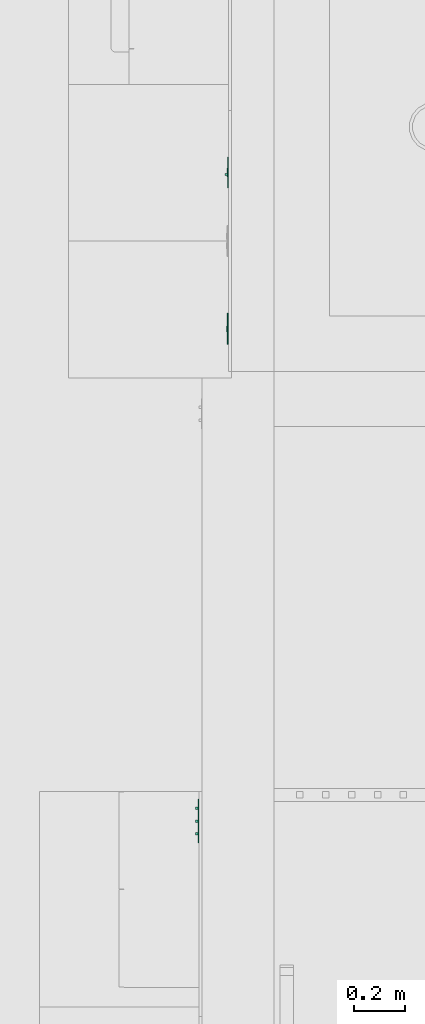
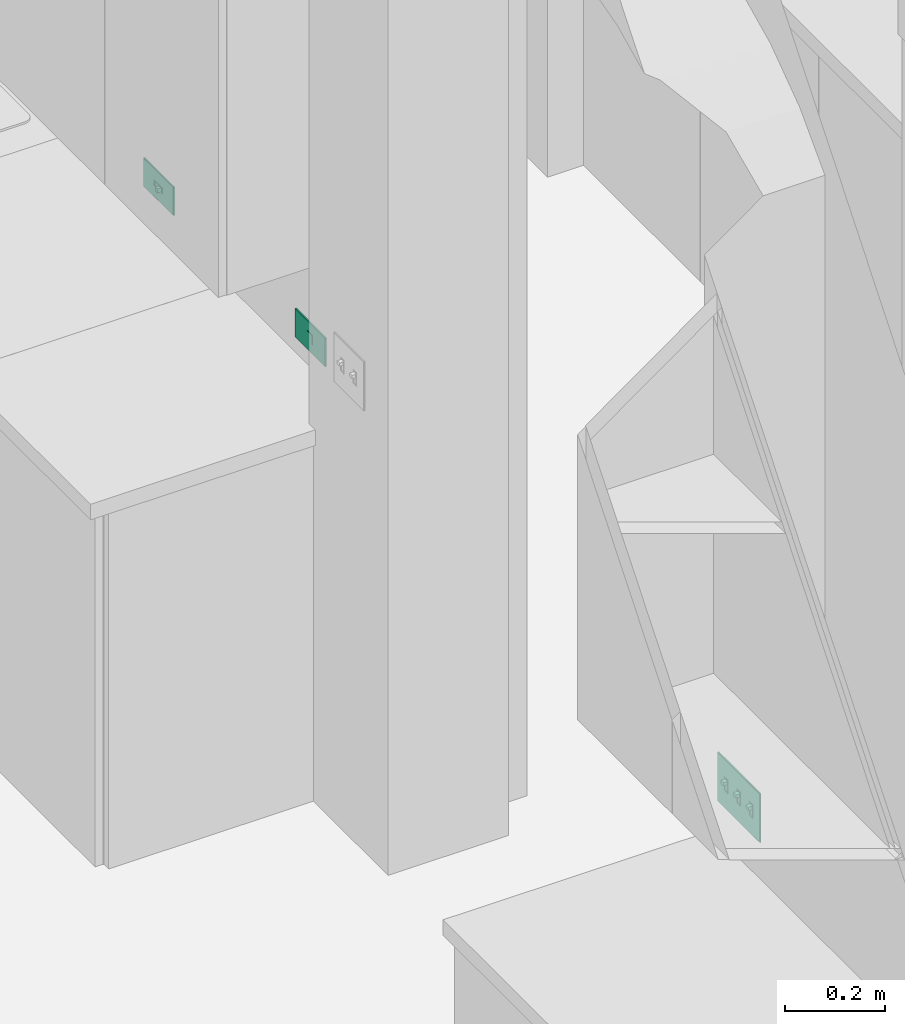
# One storey, part 40 of 103: 3 flow controllers.
"""IFC2X3 building model written with IfcOpenShell, lengths in inches."""

from ifc_helpers import new_model, entity, si_unit, converted_unit, derived_unit, money_unit, direction, frame, origin_with_axes, place, context, subcontext, project, spatial, faceted_brep, type_object, element, save


model = new_model("IFC2X3")

# Units and contexts
model_context = context("Model", 3, precision=0.00039370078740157, world=origin_with_axes(), true_north=direction((0.0, 1.0)))
plan_context = context("Plan", 3, precision=0.00039370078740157, world=origin_with_axes(), true_north=direction((0.0, 1.0)))
body_context = subcontext(model_context, "Body", "Model", "MODEL_VIEW")
ifc_project = project(units=[converted_unit("LENGTHUNIT", "INCH", entity("IfcPositiveLengthMeasure", 0.0254), si_unit("LENGTHUNIT", "METRE"), dimensions=[1, 0, 0, 0, 0, 0, 0]), converted_unit("AREAUNIT", "SQUARE_FOOT", entity("IfcPositiveLengthMeasure", 0.09290304), si_unit("AREAUNIT", "SQUARE_METRE"), dimensions=[2, 0, 0, 0, 0, 0, 0]), si_unit("PLANEANGLEUNIT", "RADIAN"), si_unit("SOLIDANGLEUNIT", "STERADIAN"), money_unit("USD"), converted_unit("TIMEUNIT", "Year", entity("IfcTimeMeasure", 31557600.0), si_unit("TIMEUNIT", "SECOND"), dimensions=[0, 0, 1, 0, 0, 0, 0]), si_unit("MASSUNIT", "GRAM", prefix="KILO"), si_unit("THERMODYNAMICTEMPERATUREUNIT", "DEGREE_CELSIUS"), si_unit("LUMINOUSINTENSITYUNIT", "LUMEN"), si_unit("ENERGYUNIT", "JOULE", prefix="MEGA"), derived_unit("SPECIFICHEATCAPACITYUNIT", [(si_unit("ENERGYUNIT", "JOULE"), 1), (si_unit("MASSUNIT", "GRAM", prefix="KILO"), -1), (si_unit("THERMODYNAMICTEMPERATUREUNIT", "KELVIN"), -1)])], contexts=[model_context, plan_context])

# Site, building, storey
site_placement = place(None, origin_with_axes())
site = spatial("IfcSite", under=ifc_project, at=site_placement, Name="Site", CompositionType="ELEMENT")
building_placement = place(site_placement, origin_with_axes())
building = spatial("IfcBuilding", under=site, at=building_placement, Name="Building", CompositionType="ELEMENT")
storey_placement = place(building_placement, frame((0.0, 0.0, 127.9999999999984), z_axis=(0.0, 0.0, 1.0), x_axis=(1.0, 0.0, 0.0)))
storey = spatial("IfcBuildingStorey", under=building, at=storey_placement, Name="Second Floor", CompositionType="ELEMENT", Elevation=128.0)

# Flow controllers
switching_device_type_1 = type_object("IfcSwitchingDeviceType", Name="Outlet 1 US", PredefinedType="NOTDEFINED")
flow_controller_1_placement = place(storey_placement, frame((154.4998606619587, 203.5007118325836, 38.99999999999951), z_axis=(0.0, 0.0, 1.0), x_axis=(2.019381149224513e-06, -0.9999999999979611, 0.0)))
element("IfcFlowController", 1, at=flow_controller_1_placement, inside=storey, type_object=switching_device_type_1, Name="OBJ-05", context=body_context, shape_type="Brep", body=[
    faceted_brep([(0.39370078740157, -0.0344488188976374, -0.472440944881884), (0.3937007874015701, -0.03444881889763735, 0.472440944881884), (0.3937007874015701, -0.2165354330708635, 0.472440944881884), (0.39370078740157, -0.2165354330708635, -0.472440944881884), (-0.3937007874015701, -0.0344488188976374, -0.4724409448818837), (-0.39370078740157, -0.03444881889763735, 0.472440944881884), (-0.39370078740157, -0.2165354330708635, 0.472440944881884), (-0.3937007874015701, -0.2165354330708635, -0.4724409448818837)], [[[0, 1, 2, 3]], [[0, 4, 5, 1]], [[1, 5, 6, 2]], [[3, 2, 6, 7]], [[4, 0, 3, 7]], [[5, 4, 7, 6]]]),
    faceted_brep([(2.374999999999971, -0.1377952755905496, -1.374999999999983), (2.374999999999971, -0.1377952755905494, 1.374999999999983), (-2.374999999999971, -0.1377952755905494, 1.374999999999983), (-2.374999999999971, -0.1377952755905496, -1.374999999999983), (-0.3937007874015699, -0.1377952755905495, -0.4724409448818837), (-0.39370078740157, -0.1377952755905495, 0.4724409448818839), (0.3937007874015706, -0.1377952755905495, 0.4724409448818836), (0.39370078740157, -0.1377952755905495, -0.472440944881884), (2.374999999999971, 0.0, 1.374999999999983), (2.374999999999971, 0.0, -1.374999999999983), (-2.374999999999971, 0.0, 1.374999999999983), (-2.374999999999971, 0.0, -1.374999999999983), (-0.3937007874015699, -0.0344488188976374, -0.4724409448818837), (-0.39370078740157, -0.03444881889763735, 0.4724409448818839), (0.3937007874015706, -0.03444881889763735, 0.4724409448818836), (0.39370078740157, -0.0344488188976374, -0.472440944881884)], [[[0, 1, 2, 3], [4, 5, 6, 7]], [[8, 1, 0, 9]], [[10, 2, 1, 8]], [[11, 3, 2, 10]], [[9, 0, 3, 11]], [[5, 4, 12, 13]], [[6, 5, 13, 14]], [[7, 6, 14, 15]], [[4, 7, 15, 12]], [[10, 8, 9, 11]], [[14, 13, 12, 15]]]),
])
switching_device_type_2 = type_object("IfcSwitchingDeviceType", Name="Switch US", PredefinedType="NOTDEFINED")
flow_controller_2_placement = place(storey_placement, frame((150.0000134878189, 128.0006987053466, 41.99999999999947), z_axis=(0.0, 0.0, 1.0), x_axis=(1.346018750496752e-06, -0.9999999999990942, 0.0)))
element("IfcFlowController", 2, at=flow_controller_2_placement, inside=storey, type_object=switching_device_type_2, Name="OBJ-09", context=body_context, shape_type="Brep", body=[
    faceted_brep([(2.165354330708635, 0.0, -0.5905511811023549), (1.771653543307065, 0.0, -0.5905511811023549), (1.771653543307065, 0.0, 0.5905511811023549), (2.165354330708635, 0.0, 0.5905511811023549), (2.165354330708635, -0.1033464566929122, -0.5905511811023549), (1.771653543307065, -0.1033464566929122, -0.5905511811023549), (1.771653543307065, -0.1033464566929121, 0.157480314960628), (1.771653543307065, -0.4970472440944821, 0.1574803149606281), (1.771653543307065, -0.4970472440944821, 0.472440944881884), (1.771653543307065, -0.1033464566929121, 0.472440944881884), (1.771653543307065, -0.1033464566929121, 0.5905511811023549), (2.165354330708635, -0.103346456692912, 0.5905511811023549), (2.165354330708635, -0.1033464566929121, 0.472440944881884), (2.165354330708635, -0.4970472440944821, 0.472440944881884), (2.165354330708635, -0.4970472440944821, 0.1574803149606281), (2.165354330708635, -0.1033464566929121, 0.157480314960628)], [[[0, 1, 2, 3]], [[4, 5, 1, 0]], [[1, 5, 6, 7, 8, 9, 10, 2]], [[3, 2, 10, 11]], [[0, 3, 11, 12, 13, 14, 15, 4]], [[15, 6, 5, 4]], [[14, 7, 6, 15]], [[13, 8, 7, 14]], [[12, 9, 8, 13]], [[11, 10, 9, 12]]]),
    faceted_brep([(2.244094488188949, 0.0, -0.669291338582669), (2.244094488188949, -0.1771653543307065, -0.669291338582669), (1.692913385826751, -0.1771653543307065, -0.669291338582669), (1.692913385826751, 0.0, -0.669291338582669), (2.244094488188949, 0.0, 0.669291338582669), (2.244094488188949, -0.1771653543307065, 0.669291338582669), (1.692913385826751, -0.1771653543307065, 0.669291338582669), (2.165354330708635, -0.1771653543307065, -0.5905511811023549), (1.771653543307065, -0.1771653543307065, -0.5905511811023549), (1.771653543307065, -0.1771653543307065, 0.5905511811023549), (2.165354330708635, -0.1771653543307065, 0.5905511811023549), (1.692913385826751, 0.0, 0.669291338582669), (2.165354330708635, 0.0, -0.5905511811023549), (2.165354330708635, 0.0, 0.5905511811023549), (1.771653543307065, 0.0, 0.5905511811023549), (1.771653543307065, 0.0, -0.5905511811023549)], [[[0, 1, 2, 3]], [[4, 5, 1, 0]], [[1, 5, 6, 2], [7, 8, 9, 10]], [[3, 2, 6, 11]], [[0, 3, 11, 4], [12, 13, 14, 15]], [[11, 6, 5, 4]], [[15, 8, 7, 12]], [[14, 9, 8, 15]], [[13, 10, 9, 14]], [[12, 7, 10, 13]]]),
    faceted_brep([(0.9842519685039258, -0.103346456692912, 2.362204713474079), (3.346456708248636, -0.103346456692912, 2.362204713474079), (3.346456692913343, 0.0, 2.36220472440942), (0.9842519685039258, 0.0, 2.36220472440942), (0.9842519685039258, -0.1122624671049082, 2.361030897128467), (3.345282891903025, -0.1122624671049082, 2.361030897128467), (3.346456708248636, -0.1033464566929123, -2.36220473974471), (3.346456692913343, 0.0, -2.36220472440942), (0.9842519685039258, 0.0, -2.36220472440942), (1.69291338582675, 0.0, -0.669291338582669), (2.244094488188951, 0.0, -0.669291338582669), (2.244094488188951, 0.0, 0.669291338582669), (1.69291338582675, 0.0, 0.669291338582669), (0.9842519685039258, -0.1033464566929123, -2.36220473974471), (0.9842519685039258, -0.1122624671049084, -2.361030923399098), (0.9842519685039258, -0.1277054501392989, -2.352114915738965), (0.9842519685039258, -0.1366214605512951, -2.336671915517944), (0.9842519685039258, -0.1377952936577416, -2.327755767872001), (0.9842519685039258, -0.1377952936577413, 2.32775574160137), (0.9842519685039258, -0.1366214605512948, 2.336671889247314), (0.9842519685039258, -0.1277054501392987, 2.352114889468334), (3.336366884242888, -0.1277054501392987, 2.352114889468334), (3.345282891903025, -0.1122624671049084, -2.361030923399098), (1.69291338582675, -0.1377952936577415, -0.669291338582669), (2.244094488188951, -0.1377952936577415, -0.669291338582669), (2.244094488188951, -0.1377952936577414, 0.669291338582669), (1.69291338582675, -0.1377952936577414, 0.669291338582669), (3.336366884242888, -0.1277054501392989, -2.352114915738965), (3.320923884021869, -0.1366214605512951, -2.336671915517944), (3.312007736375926, -0.1377952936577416, -2.327755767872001), (3.312007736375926, -0.1377952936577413, 2.32775574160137), (3.320923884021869, -0.1366214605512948, 2.336671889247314)], [[[0, 1, 2, 3]], [[4, 5, 1, 0]], [[6, 7, 2, 1]], [[3, 2, 7, 8], [9, 10, 11, 12]], [[8, 13, 14, 15, 16, 17, 18, 19, 20, 4, 0, 3]], [[20, 21, 5, 4]], [[22, 6, 1, 5]], [[8, 7, 6, 13]], [[10, 9, 23, 24]], [[11, 10, 24, 25]], [[12, 11, 25, 26]], [[9, 12, 26, 23]], [[13, 6, 22, 14]], [[14, 22, 27, 15]], [[15, 27, 28, 16]], [[16, 28, 29, 17]], [[17, 29, 30, 18], [25, 24, 23, 26]], [[18, 30, 31, 19]], [[19, 31, 21, 20]], [[27, 22, 5, 21]], [[28, 27, 21, 31]], [[29, 28, 31, 30]]]),
    faceted_brep([(0.1968503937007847, 0.0, -0.5905511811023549), (-0.1968503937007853, 0.0, -0.5905511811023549), (-0.1968503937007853, 0.0, 0.5905511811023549), (0.1968503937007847, 0.0, 0.5905511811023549), (0.1968503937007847, -0.1033464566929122, -0.5905511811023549), (-0.1968503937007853, -0.1033464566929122, -0.5905511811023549), (-0.1968503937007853, -0.1033464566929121, 0.157480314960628), (-0.1968503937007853, -0.4970472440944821, 0.1574803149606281), (-0.1968503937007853, -0.4970472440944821, 0.472440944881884), (-0.1968503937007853, -0.1033464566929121, 0.472440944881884), (-0.1968503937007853, -0.1033464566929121, 0.5905511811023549), (0.1968503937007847, -0.103346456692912, 0.5905511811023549), (0.1968503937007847, -0.1033464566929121, 0.472440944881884), (0.1968503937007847, -0.4970472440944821, 0.472440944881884), (0.1968503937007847, -0.4970472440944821, 0.1574803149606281), (0.1968503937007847, -0.1033464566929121, 0.157480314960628)], [[[0, 1, 2, 3]], [[4, 5, 1, 0]], [[1, 5, 6, 7, 8, 9, 10, 2]], [[3, 2, 10, 11]], [[0, 3, 11, 12, 13, 14, 15, 4]], [[15, 6, 5, 4]], [[14, 7, 6, 15]], [[13, 8, 7, 14]], [[12, 9, 8, 13]], [[11, 10, 9, 12]]]),
    faceted_brep([(0.2755905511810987, 0.0, -0.669291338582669), (0.2755905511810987, -0.1771653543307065, -0.669291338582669), (-0.2755905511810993, -0.1771653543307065, -0.669291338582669), (-0.2755905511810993, 0.0, -0.669291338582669), (0.2755905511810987, 0.0, 0.669291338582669), (0.2755905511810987, -0.1771653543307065, 0.669291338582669), (-0.2755905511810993, -0.1771653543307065, 0.669291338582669), (0.1968503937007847, -0.1771653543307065, -0.5905511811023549), (-0.1968503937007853, -0.1771653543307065, -0.5905511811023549), (-0.1968503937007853, -0.1771653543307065, 0.5905511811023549), (0.1968503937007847, -0.1771653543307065, 0.5905511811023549), (-0.2755905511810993, 0.0, 0.669291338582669), (0.1968503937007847, 0.0, -0.5905511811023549), (0.1968503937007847, 0.0, 0.5905511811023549), (-0.1968503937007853, 0.0, 0.5905511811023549), (-0.1968503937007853, 0.0, -0.5905511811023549)], [[[0, 1, 2, 3]], [[4, 5, 1, 0]], [[1, 5, 6, 2], [7, 8, 9, 10]], [[3, 2, 6, 11]], [[0, 3, 11, 4], [12, 13, 14, 15]], [[11, 6, 5, 4]], [[15, 8, 7, 12]], [[14, 9, 8, 15]], [[13, 10, 9, 14]], [[12, 7, 10, 13]]]),
    faceted_brep([(0.9842519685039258, 0.0, -2.36220472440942), (-0.9842519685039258, 0.0, -2.36220472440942), (-0.9842519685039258, 0.0, 2.36220472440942), (0.9842519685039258, 0.0, 2.36220472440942), (-0.2755905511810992, 0.0, 0.669291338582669), (-0.2755905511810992, 0.0, -0.669291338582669), (0.2755905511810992, 0.0, -0.669291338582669), (0.2755905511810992, 0.0, 0.669291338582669), (0.9842519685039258, -0.1033464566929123, -2.36220473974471), (-0.9842519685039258, -0.1033464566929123, -2.36220473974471), (-0.9842519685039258, -0.1277054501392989, -2.352114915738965), (-0.9842519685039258, -0.1366214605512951, -2.336671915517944), (-0.9842519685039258, -0.1377952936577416, -2.327755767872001), (-0.9842519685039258, -0.1377952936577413, 2.32775574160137), (-0.9842519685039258, -0.1366214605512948, 2.336671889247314), (-0.9842519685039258, -0.1277054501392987, 2.352114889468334), (-0.9842519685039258, -0.1122624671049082, 2.361030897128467), (-0.9842519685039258, -0.103346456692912, 2.362204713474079), (-0.9842519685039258, -0.1122624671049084, -2.361030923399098), (0.9842519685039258, -0.103346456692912, 2.362204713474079), (0.9842519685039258, -0.1122624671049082, 2.361030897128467), (0.9842519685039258, -0.1277054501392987, 2.352114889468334), (0.9842519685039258, -0.1366214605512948, 2.336671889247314), (0.9842519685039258, -0.1377952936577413, 2.32775574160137), (0.9842519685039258, -0.1377952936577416, -2.327755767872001), (0.9842519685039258, -0.1366214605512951, -2.336671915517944), (0.9842519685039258, -0.1277054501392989, -2.352114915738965), (0.9842519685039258, -0.1122624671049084, -2.361030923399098), (-0.2755905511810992, -0.1377952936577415, -0.669291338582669), (-0.2755905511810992, -0.1377952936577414, 0.669291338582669), (0.2755905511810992, -0.1377952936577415, -0.669291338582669), (0.2755905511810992, -0.1377952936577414, 0.669291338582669)], [[[0, 1, 2, 3], [4, 5, 6, 7]], [[8, 9, 1, 0]], [[10, 11, 12, 13, 14, 15, 16, 17, 2, 1, 9, 18]], [[3, 2, 17, 19]], [[19, 20, 21, 22, 23, 24, 25, 26, 27, 8, 0, 3]], [[28, 5, 4, 29]], [[30, 6, 5, 28]], [[31, 7, 6, 30]], [[29, 4, 7, 31]], [[27, 18, 9, 8]], [[25, 11, 10, 26]], [[24, 12, 11, 25]], [[23, 13, 12, 24], [29, 31, 30, 28]], [[22, 14, 13, 23]], [[21, 15, 14, 22]], [[20, 16, 15, 21]], [[19, 17, 16, 20]], [[26, 10, 18, 27]]]),
    faceted_brep([(-1.771653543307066, 0.0, -0.5905511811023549), (-2.165354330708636, 0.0, -0.5905511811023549), (-2.165354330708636, 0.0, 0.5905511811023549), (-1.771653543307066, 0.0, 0.5905511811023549), (-1.771653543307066, -0.1033464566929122, -0.5905511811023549), (-2.165354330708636, -0.1033464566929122, -0.5905511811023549), (-2.165354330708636, -0.1033464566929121, 0.157480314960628), (-2.165354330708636, -0.4970472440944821, 0.1574803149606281), (-2.165354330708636, -0.4970472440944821, 0.472440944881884), (-2.165354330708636, -0.1033464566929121, 0.472440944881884), (-2.165354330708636, -0.1033464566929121, 0.5905511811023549), (-1.771653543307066, -0.103346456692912, 0.5905511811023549), (-1.771653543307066, -0.1033464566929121, 0.472440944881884), (-1.771653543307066, -0.4970472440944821, 0.472440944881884), (-1.771653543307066, -0.4970472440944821, 0.1574803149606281), (-1.771653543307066, -0.1033464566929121, 0.157480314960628)], [[[0, 1, 2, 3]], [[4, 5, 1, 0]], [[1, 5, 6, 7, 8, 9, 10, 2]], [[3, 2, 10, 11]], [[0, 3, 11, 12, 13, 14, 15, 4]], [[15, 6, 5, 4]], [[14, 7, 6, 15]], [[13, 8, 7, 14]], [[12, 9, 8, 13]], [[11, 10, 9, 12]]]),
    faceted_brep([(-1.692913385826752, 0.0, -0.669291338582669), (-1.692913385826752, -0.1771653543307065, -0.669291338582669), (-2.24409448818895, -0.1771653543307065, -0.669291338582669), (-2.24409448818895, 0.0, -0.669291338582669), (-1.692913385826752, 0.0, 0.669291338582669), (-1.692913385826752, -0.1771653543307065, 0.669291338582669), (-2.24409448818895, -0.1771653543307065, 0.669291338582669), (-1.771653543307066, -0.1771653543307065, -0.5905511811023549), (-2.165354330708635, -0.1771653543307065, -0.5905511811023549), (-2.165354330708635, -0.1771653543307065, 0.5905511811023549), (-1.771653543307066, -0.1771653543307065, 0.5905511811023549), (-2.24409448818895, 0.0, 0.669291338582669), (-1.771653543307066, 0.0, -0.5905511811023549), (-1.771653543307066, 0.0, 0.5905511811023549), (-2.165354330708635, 0.0, 0.5905511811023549), (-2.165354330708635, 0.0, -0.5905511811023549)], [[[0, 1, 2, 3]], [[4, 5, 1, 0]], [[1, 5, 6, 2], [7, 8, 9, 10]], [[3, 2, 6, 11]], [[0, 3, 11, 4], [12, 13, 14, 15]], [[11, 6, 5, 4]], [[15, 8, 7, 12]], [[14, 9, 8, 15]], [[13, 10, 9, 14]], [[12, 7, 10, 13]]]),
    faceted_brep([(-0.9842519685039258, 0.0, -2.36220472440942), (-3.346456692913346, 0.0, -2.36220472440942), (-3.346456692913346, 0.0, 2.36220472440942), (-0.9842519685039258, 0.0, 2.36220472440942), (-2.244094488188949, 0.0, -0.669291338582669), (-1.692913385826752, 0.0, -0.669291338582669), (-1.692913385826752, 0.0, 0.669291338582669), (-2.244094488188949, 0.0, 0.669291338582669), (-0.9842519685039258, -0.1033464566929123, -2.36220473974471), (-3.346456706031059, -0.1033464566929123, -2.36220473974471), (-3.346456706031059, -0.103346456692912, 2.362204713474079), (-0.9842519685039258, -0.103346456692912, 2.362204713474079), (-0.9842519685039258, -0.1122624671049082, 2.361030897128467), (-0.9842519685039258, -0.1277054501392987, 2.352114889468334), (-0.9842519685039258, -0.1366214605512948, 2.336671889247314), (-0.9842519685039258, -0.1377952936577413, 2.32775574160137), (-0.9842519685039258, -0.1377952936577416, -2.327755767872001), (-0.9842519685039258, -0.1366214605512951, -2.336671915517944), (-0.9842519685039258, -0.1277054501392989, -2.352114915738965), (-0.9842519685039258, -0.1122624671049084, -2.361030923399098), (-2.244094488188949, -0.1377952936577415, -0.669291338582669), (-1.692913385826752, -0.1377952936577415, -0.669291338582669), (-1.692913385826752, -0.1377952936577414, 0.669291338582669), (-2.244094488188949, -0.1377952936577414, 0.669291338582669), (-3.345282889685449, -0.1122624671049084, -2.361030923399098), (-3.345282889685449, -0.1122624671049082, 2.361030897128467), (-3.336366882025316, -0.1277054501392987, 2.352114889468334), (-3.320923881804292, -0.1366214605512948, 2.336671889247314), (-3.312007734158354, -0.1377952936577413, 2.32775574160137), (-3.312007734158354, -0.1377952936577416, -2.327755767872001), (-3.320923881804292, -0.1366214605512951, -2.336671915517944), (-3.336366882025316, -0.1277054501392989, -2.352114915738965)], [[[0, 1, 2, 3], [4, 5, 6, 7]], [[8, 9, 1, 0]], [[10, 2, 1, 9]], [[3, 2, 10, 11]], [[11, 12, 13, 14, 15, 16, 17, 18, 19, 8, 0, 3]], [[5, 4, 20, 21]], [[6, 5, 21, 22]], [[7, 6, 22, 23]], [[4, 7, 23, 20]], [[19, 24, 9, 8]], [[25, 10, 9, 24]], [[11, 10, 25, 12]], [[12, 25, 26, 13]], [[13, 26, 27, 14]], [[14, 27, 28, 15]], [[15, 28, 29, 16], [22, 21, 20, 23]], [[16, 29, 30, 17]], [[17, 30, 31, 18]], [[18, 31, 24, 19]], [[26, 25, 24, 31]], [[27, 26, 31, 30]], [[28, 27, 30, 29]]]),
])
flow_controller_3_placement = place(storey_placement, frame((154.4998121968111, 227.5007118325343, 38.99999999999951), z_axis=(0.0, 0.0, 1.0), x_axis=(2.019381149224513e-06, -0.9999999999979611, 0.0)))
element("IfcFlowController", 3, at=flow_controller_3_placement, inside=storey, type_object=switching_device_type_2, Name="OBJ-09", context=body_context, shape_type="Brep", body=[
    faceted_brep([(-0.5905511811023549, 0.0, -0.196850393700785), (-0.5905511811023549, 0.0, 0.1968503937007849), (0.5905511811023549, 0.0, 0.1968503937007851), (0.5905511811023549, 0.0, -0.196850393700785), (-0.5905511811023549, -0.1033464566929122, -0.196850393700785), (-0.5905511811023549, -0.1033464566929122, 0.1968503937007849), (0.1574803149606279, -0.1033464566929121, 0.196850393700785), (0.157480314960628, -0.4970472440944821, 0.196850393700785), (0.472440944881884, -0.4970472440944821, 0.196850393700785), (0.472440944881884, -0.1033464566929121, 0.196850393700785), (0.5905511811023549, -0.1033464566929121, 0.1968503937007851), (0.5905511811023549, -0.1033464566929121, -0.196850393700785), (0.472440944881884, -0.1033464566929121, -0.196850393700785), (0.472440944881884, -0.4970472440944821, -0.196850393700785), (0.157480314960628, -0.4970472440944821, -0.196850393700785), (0.157480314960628, -0.1033464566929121, -0.196850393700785)], [[[0, 1, 2, 3]], [[4, 5, 1, 0]], [[1, 5, 6, 7, 8, 9, 10, 2]], [[3, 2, 10, 11]], [[0, 3, 11, 12, 13, 14, 15, 4]], [[15, 6, 5, 4]], [[14, 7, 6, 15]], [[13, 8, 7, 14]], [[12, 9, 8, 13]], [[11, 10, 9, 12]]]),
    faceted_brep([(-0.669291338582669, 0.0, -0.275590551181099), (-0.669291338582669, -0.1771653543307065, -0.275590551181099), (-0.669291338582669, -0.1771653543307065, 0.275590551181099), (-0.669291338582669, 0.0, 0.275590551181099), (0.669291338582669, 0.0, -0.275590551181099), (0.669291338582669, -0.1771653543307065, -0.275590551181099), (0.669291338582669, -0.1771653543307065, 0.275590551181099), (-0.5905511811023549, -0.1771653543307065, -0.196850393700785), (-0.5905511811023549, -0.1771653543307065, 0.196850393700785), (0.5905511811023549, -0.1771653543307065, 0.196850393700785), (0.5905511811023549, -0.1771653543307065, -0.196850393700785), (0.669291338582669, 0.0, 0.275590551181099), (-0.5905511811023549, 0.0, -0.196850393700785), (0.5905511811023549, 0.0, -0.196850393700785), (0.5905511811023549, 0.0, 0.196850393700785), (-0.5905511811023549, 0.0, 0.196850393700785)], [[[0, 1, 2, 3]], [[4, 5, 1, 0]], [[1, 5, 6, 2], [7, 8, 9, 10]], [[3, 2, 6, 11]], [[0, 3, 11, 4], [12, 13, 14, 15]], [[11, 6, 5, 4]], [[15, 8, 7, 12]], [[14, 9, 8, 15]], [[13, 10, 9, 14]], [[12, 7, 10, 13]]]),
    faceted_brep([(2.32775574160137, -0.1377952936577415, -1.343503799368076), (2.32775574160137, -0.1377952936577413, 1.343503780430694), (-2.327755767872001, -0.1377952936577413, 1.343503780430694), (-2.327755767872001, -0.1377952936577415, -1.343503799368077), (0.669291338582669, -0.1377952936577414, -0.275590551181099), (-0.669291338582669, -0.1377952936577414, -0.275590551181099), (-0.669291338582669, -0.1377952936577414, 0.275590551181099), (0.669291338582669, -0.1377952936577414, 0.275590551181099), (2.336671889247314, -0.1366214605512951, -1.352419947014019), (2.336671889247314, -0.1366214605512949, 1.352419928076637), (-2.336671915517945, -0.1366214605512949, 1.352419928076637), (-2.336671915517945, -0.1366214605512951, -1.352419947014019), (-0.669291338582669, 0.0, -0.275590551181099), (0.669291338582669, 0.0, -0.275590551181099), (-0.669291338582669, 0.0, 0.275590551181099), (0.669291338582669, 0.0, 0.275590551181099), (2.352114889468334, -0.1277054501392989, -1.367862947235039), (2.352114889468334, -0.1277054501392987, 1.367862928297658), (-2.352114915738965, -0.1277054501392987, 1.367862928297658), (-2.352114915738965, -0.1277054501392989, -1.36786294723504), (2.36220472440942, 0.0, -1.377952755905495), (-2.36220472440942, 0.0, -1.377952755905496), (-2.36220472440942, 0.0, 1.377952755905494), (2.36220472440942, 0.0, 1.377952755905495), (2.361030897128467, -0.1122624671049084, -1.376778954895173), (2.361030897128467, -0.1122624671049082, 1.376778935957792), (-2.361030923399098, -0.1122624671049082, 1.376778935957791), (-2.361030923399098, -0.1122624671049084, -1.376778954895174), (2.362204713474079, -0.1033464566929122, -1.377952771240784), (-2.36220473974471, -0.1033464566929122, -1.377952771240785), (-2.36220473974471, -0.103346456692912, 1.377952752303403), (2.362204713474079, -0.103346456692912, 1.377952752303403)], [[[0, 1, 2, 3], [4, 5, 6, 7]], [[8, 9, 1, 0]], [[9, 10, 2, 1]], [[10, 11, 3, 2]], [[11, 8, 0, 3]], [[12, 5, 4, 13]], [[14, 6, 5, 12]], [[15, 7, 6, 14]], [[13, 4, 7, 15]], [[16, 17, 9, 8]], [[17, 18, 10, 9]], [[18, 19, 11, 10]], [[19, 16, 8, 11]], [[20, 21, 22, 23], [13, 15, 14, 12]], [[24, 25, 17, 16]], [[25, 26, 18, 17]], [[26, 27, 19, 18]], [[27, 24, 16, 19]], [[21, 20, 28, 29]], [[22, 21, 29, 30]], [[23, 22, 30, 31]], [[20, 23, 31, 28]], [[28, 31, 25, 24]], [[31, 30, 26, 25]], [[30, 29, 27, 26]], [[29, 28, 24, 27]]]),
])

save(model, "model.ifc")
